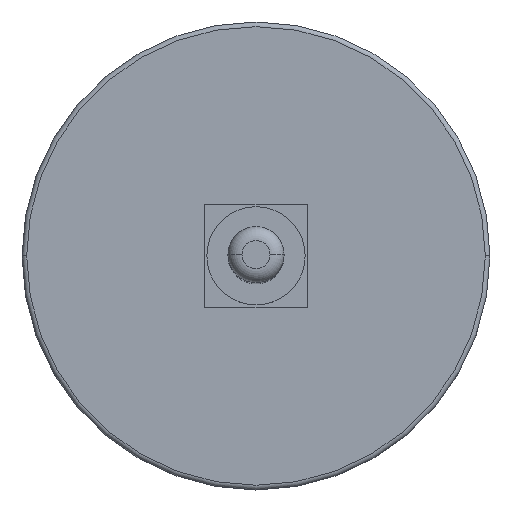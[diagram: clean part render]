
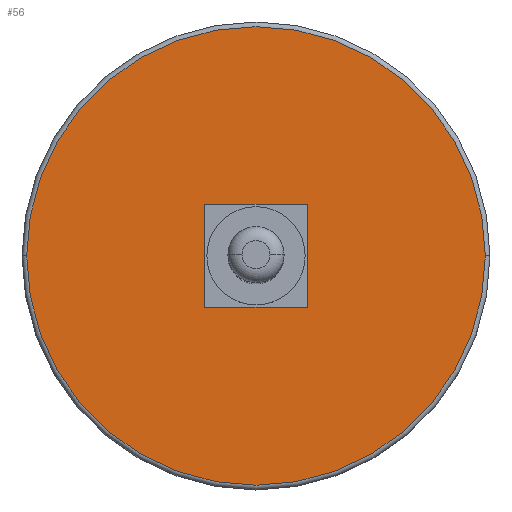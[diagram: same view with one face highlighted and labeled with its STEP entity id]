
A CAD part, top view. The second image highlights one B-rep face of the part: STEP entity #56.
In plain terms, the highlighted planar face has unit normal (0, 0, 1).
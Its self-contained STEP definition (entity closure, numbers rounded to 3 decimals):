
#7 = PLANE ( 'NONE',  #213 ) ;
#15 = DIRECTION ( 'NONE',  ( 1., 0., 0. ) ) ;
#22 = CIRCLE ( 'NONE', #175, 49. ) ;
#28 = DIRECTION ( 'NONE',  ( 0., 0., 1. ) ) ;
#33 = ORIENTED_EDGE ( 'NONE', *, *, #318, .F. ) ;
#44 = EDGE_CURVE ( 'NONE', #229, #222, #540, .T. ) ;
#55 = FACE_OUTER_BOUND ( 'NONE', #439, .T. ) ;
#56 = ADVANCED_FACE ( 'NONE', ( #55, #420 ), #7, .T. ) ;
#67 = CARTESIAN_POINT ( 'NONE',  ( 11., 11., 11.5 ) ) ;
#79 = EDGE_CURVE ( 'NONE', #267, #509, #104, .T. ) ;
#83 = ORIENTED_EDGE ( 'NONE', *, *, #437, .T. ) ;
#104 = LINE ( 'NONE', #382, #506 ) ;
#105 = VECTOR ( 'NONE', #15, 1000. ) ;
#157 = CARTESIAN_POINT ( 'NONE',  ( -11., 11., 11.5 ) ) ;
#161 = CARTESIAN_POINT ( 'NONE',  ( 0., 0., 11.5 ) ) ;
#164 = ORIENTED_EDGE ( 'NONE', *, *, #79, .F. ) ;
#169 = EDGE_LOOP ( 'NONE', ( #303, #584, #164, #33 ) ) ;
#175 = AXIS2_PLACEMENT_3D ( 'NONE', #238, #194, #432 ) ;
#194 = DIRECTION ( 'NONE',  ( 0., 0., 1. ) ) ;
#197 = LINE ( 'NONE', #391, #105 ) ;
#200 = DIRECTION ( 'NONE',  ( -1., 0., 0. ) ) ;
#202 = CIRCLE ( 'NONE', #598, 49. ) ;
#204 = DIRECTION ( 'NONE',  ( 0., 1., 0. ) ) ;
#210 = DIRECTION ( 'NONE',  ( 1., 0., 0. ) ) ;
#212 = ORIENTED_EDGE ( 'NONE', *, *, #280, .T. ) ;
#213 = AXIS2_PLACEMENT_3D ( 'NONE', #428, #384, #522 ) ;
#222 = VERTEX_POINT ( 'NONE', #595 ) ;
#229 = VERTEX_POINT ( 'NONE', #354 ) ;
#236 = DIRECTION ( 'NONE',  ( 0., -1., 0. ) ) ;
#238 = CARTESIAN_POINT ( 'NONE',  ( 0., 0., 11.5 ) ) ;
#255 = CARTESIAN_POINT ( 'NONE',  ( -11., 11., 11.5 ) ) ;
#267 = VERTEX_POINT ( 'NONE', #255 ) ;
#280 = EDGE_CURVE ( 'NONE', #462, #301, #202, .T. ) ;
#286 = VECTOR ( 'NONE', #200, 1000. ) ;
#291 = LINE ( 'NONE', #157, #286 ) ;
#301 = VERTEX_POINT ( 'NONE', #312 ) ;
#303 = ORIENTED_EDGE ( 'NONE', *, *, #44, .F. ) ;
#312 = CARTESIAN_POINT ( 'NONE',  ( -49., 0., 11.5 ) ) ;
#318 = EDGE_CURVE ( 'NONE', #222, #267, #291, .T. ) ;
#326 = CARTESIAN_POINT ( 'NONE',  ( -11., -11., 11.5 ) ) ;
#335 = VECTOR ( 'NONE', #204, 1000. ) ;
#354 = CARTESIAN_POINT ( 'NONE',  ( 11., -11., 11.5 ) ) ;
#375 = EDGE_CURVE ( 'NONE', #509, #229, #197, .T. ) ;
#382 = CARTESIAN_POINT ( 'NONE',  ( -11., 11., 11.5 ) ) ;
#384 = DIRECTION ( 'NONE',  ( 0., 0., 1. ) ) ;
#391 = CARTESIAN_POINT ( 'NONE',  ( -11., -11., 11.5 ) ) ;
#420 = FACE_BOUND ( 'NONE', #169, .T. ) ;
#428 = CARTESIAN_POINT ( 'NONE',  ( 0., 0., 11.5 ) ) ;
#432 = DIRECTION ( 'NONE',  ( 1., 0., 0. ) ) ;
#437 = EDGE_CURVE ( 'NONE', #301, #462, #22, .T. ) ;
#439 = EDGE_LOOP ( 'NONE', ( #212, #83 ) ) ;
#462 = VERTEX_POINT ( 'NONE', #517 ) ;
#506 = VECTOR ( 'NONE', #236, 1000. ) ;
#509 = VERTEX_POINT ( 'NONE', #326 ) ;
#517 = CARTESIAN_POINT ( 'NONE',  ( 49., 0., 11.5 ) ) ;
#522 = DIRECTION ( 'NONE',  ( 1., 0., 0. ) ) ;
#540 = LINE ( 'NONE', #67, #335 ) ;
#584 = ORIENTED_EDGE ( 'NONE', *, *, #375, .F. ) ;
#595 = CARTESIAN_POINT ( 'NONE',  ( 11., 11., 11.5 ) ) ;
#598 = AXIS2_PLACEMENT_3D ( 'NONE', #161, #28, #210 ) ;
